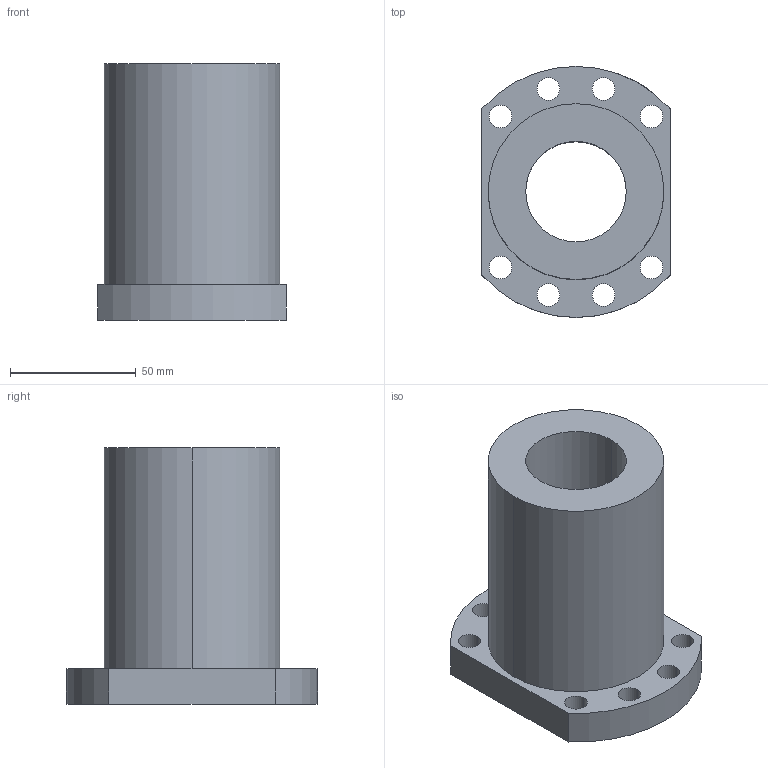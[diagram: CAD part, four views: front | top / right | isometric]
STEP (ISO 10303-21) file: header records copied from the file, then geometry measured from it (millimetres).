
FILE_DESCRIPTION((''),'2;1');
FILE_NAME('A114HTA1','2018-09-06T',('chw'),(''),'PRO/ENGINEER BY PARAMETRIC TECHNOLOGY CORPORATION, 2012200','PRO/ENGINEER BY PARAMETRIC TECHNOLOGY CORPORATION, 2012200','');
FILE_SCHEMA(('CONFIG_CONTROL_DESIGN'));
Length unit declared in the file: millimetre
Products named in the file (1): A114HTA1
Bounding box: 75 x 100 x 102 mm (x, y, z)
Volume: 295940.4 mm3; surface area: 50129.7 mm2
Topology: 1 solids, 1 shells, 29 faces, 78 edges, 52 vertices
Faces by surface type: cylinder 24, plane 5
Entity records: 1064 total; most frequent: CARTESIAN_POINT 217, DIRECTION 176, ORIENTED_EDGE 156, EDGE_CURVE 78, AXIS2_PLACEMENT_3D 73, VERTEX_POINT 52, EDGE_LOOP 50, CIRCLE 44
